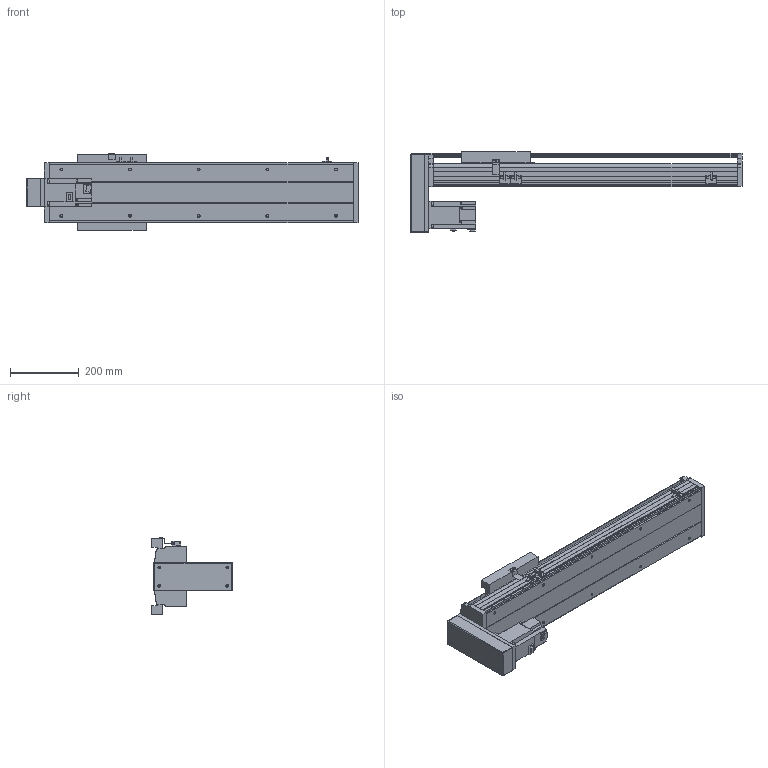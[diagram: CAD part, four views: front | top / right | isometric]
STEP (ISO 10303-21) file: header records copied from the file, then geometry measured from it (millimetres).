
FILE_DESCRIPTION( ( 'STEP AP214' ), '1' );
FILE_NAME( 'x:/temp/worker_27/temp/exporttempdir_6708_423_KR0GK/format_0/PSS200-L10-S550-BM-T75-C1-N(0).stp', '2022-06-06T02:44:43', ( 'License CC BY-ND 4.0' ), ( 'CADENAS' ), ' ', 'PARTsolutions', ' ' );
FILE_SCHEMA( ( 'AUTOMOTIVE_DESIGN { 1 0 10303 214 1 1 1 1 }' ) );
Length unit declared in the file: millimetre
Products named in the file (8): PSS200-L10-S550-BM-T75-C1-N(0); _PSS200-S550-BM-C1-N_body; _PSS200-N_Q; _PSS200-BM-C1-N_sl; _PSS200-N_sensor; _PSS200BM-N_h; _T75-p1; _PSS200-S550-BM-N_S
Assembly tree (9 placements, depth 2):
  PSS200-L10-S550-BM-T75-C1-N(0)
    _PSS200-S550-BM-C1-N_body
    _PSS200-N_Q
    _PSS200-BM-C1-N_sl
    _PSS200-N_sensor  x3
    _PSS200BM-N_h
    _T75-p1
    _PSS200-S550-BM-N_S
Bounding box: 966.85 x 234.45 x 223.86 mm (x, y, z)
Volume: 7247500.4 mm3; surface area: 1604818.5 mm2
Topology: 9 solids, 9 shells, 594 faces, 1589 edges, 1054 vertices
Faces by surface type: plane 452, cylinder 120, cone 18, sphere 4
Full cylindrical faces by diameter (mm): 4 x2, 4.5 x4, 6 x7, 6.647 x14, 7.4 x4, 8 x8, 10 x6, 25 x1, 40 x1, 67 x1
Entity records: 20809 total; most frequent: CARTESIAN_POINT 2885, DIRECTION 2727, ORIENTED_EDGE 2710, EDGE_CURVE 1355, LINE 1071, VECTOR 1071, VERTEX_POINT 938, AXIS2_PLACEMENT_3D 828
